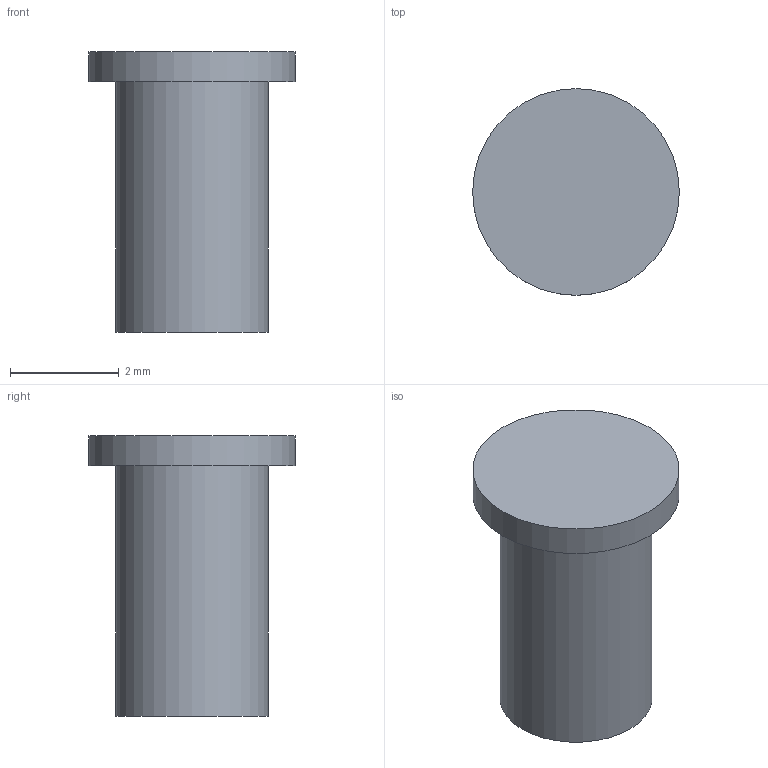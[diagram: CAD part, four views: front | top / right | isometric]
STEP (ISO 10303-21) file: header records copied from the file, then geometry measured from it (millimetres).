
FILE_DESCRIPTION(('Open CASCADE Model'),'2;1');
FILE_NAME('Open CASCADE Shape Model','2026-08-28T00:57:55',('Author'),( 'Open CASCADE'),'Open CASCADE STEP processor 7.8','Open CASCADE 7.8' ,'Unknown');
FILE_SCHEMA(('AUTOMOTIVE_DESIGN { 1 0 10303 214 1 1 1 1 }'));
Length unit declared in the file: millimetre
Products named in the file (1): Open CASCADE STEP translator 7.8 6
Bounding box: 3.8 x 3.8 x 5.15 mm (x, y, z)
Volume: 34.6 mm3; surface area: 69.7 mm2
Topology: 1 solids, 1 shells, 5 faces, 6 edges, 4 vertices
Faces by surface type: plane 3, cylinder 2
Full cylindrical faces by diameter (mm): 2.8 x1, 3.8 x1
Entity records: 192 total; most frequent: DIRECTION 34, CARTESIAN_POINT 28, ORIENTED_EDGE 12, PCURVE 12, DEFINITIONAL_REPRESENTATION 12, AXIS2_PLACEMENT_3D 10, LINE 10, VECTOR 10
